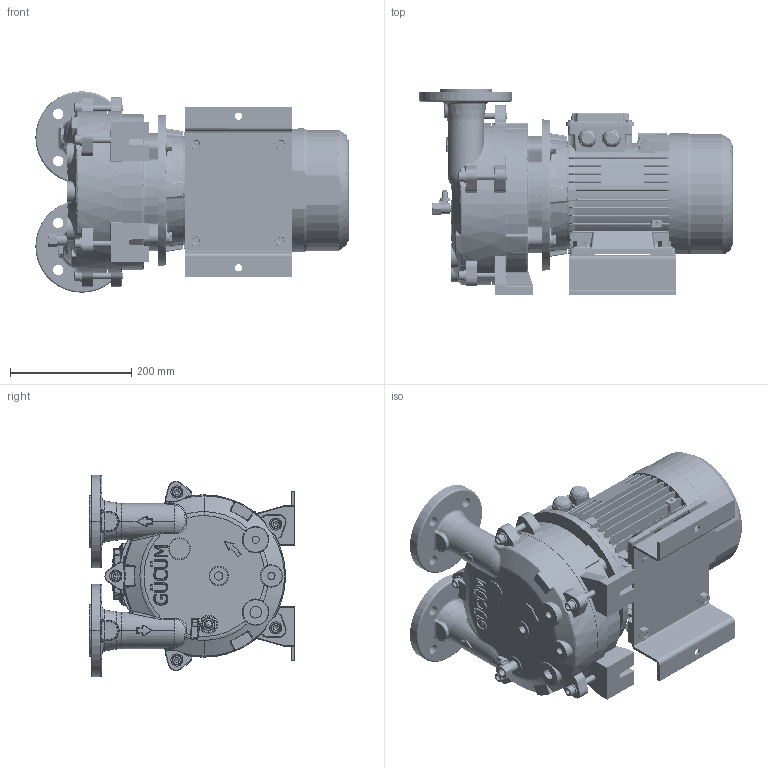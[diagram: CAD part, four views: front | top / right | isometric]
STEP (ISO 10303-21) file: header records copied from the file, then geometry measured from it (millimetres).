
FILE_DESCRIPTION (( 'STEP AP214' ), '1' );
FILE_NAME ('GMVP200-55 MONTAJ IE3 OMEGA MOTORLU.STEP', '2024-03-18T07:10:47', ( '' ), ( '' ), 'SwSTEP 2.0', 'SolidWorks 2024', '' );
FILE_SCHEMA (( 'AUTOMOTIVE_DESIGN' ));
Length unit declared in the file: millimetre
Products named in the file (1): GMVP200-55 MONTAJ IE3 OMEGA MOTORLU
Bounding box: 517.61 x 339.5 x 333 mm (x, y, z)
Volume: 18696060.9 mm3; surface area: 1104164.7 mm2
Topology: 25 solids, 31 shells, 5797 faces, 14556 edges, 8808 vertices
Faces by surface type: bspline 1789, plane 1601, cylinder 1550, cone 408, torus 326, sphere 123
Entity records: 282926 total; most frequent: CARTESIAN_POINT 163222, ORIENTED_EDGE 28680, DIRECTION 19834, EDGE_CURVE 14340, VERTEX_POINT 8790, AXIS2_PLACEMENT_3D 7546, EDGE_LOOP 6080, ADVANCED_FACE 5797
